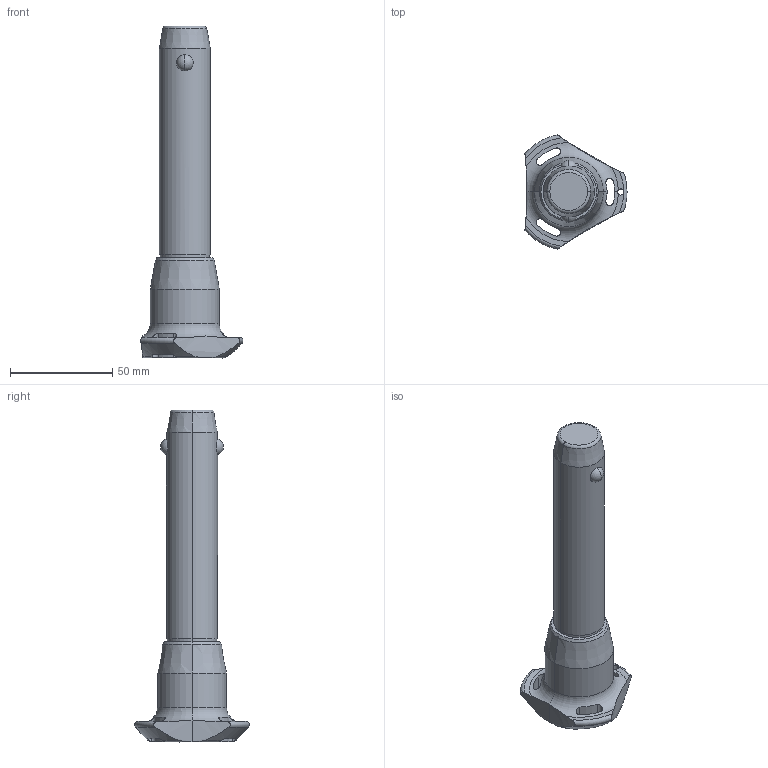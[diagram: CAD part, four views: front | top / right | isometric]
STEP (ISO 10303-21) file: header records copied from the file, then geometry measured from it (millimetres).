
FILE_DESCRIPTION (( 'STEP AP203' ), '1' );
FILE_NAME ('QR1724.M25-090-S.step', '2025-11-12T13:11:55', ( '' ), ( '' ), 'SwSTEP 2.0', 'SolidWorks 2019', '' );
FILE_SCHEMA (( 'CONFIG_CONTROL_DESIGN' ));
Length unit declared in the file: millimetre
Products named in the file (1): QR1724.M25-090-S
Bounding box: 50.04 x 56.02 x 162.7 mm (x, y, z)
Volume: 102632.2 mm3; surface area: 18517.8 mm2
Topology: 1 solids, 1 shells, 65 faces, 176 edges, 111 vertices
Faces by surface type: cylinder 30, cone 14, torus 11, sphere 6, plane 4
Entity records: 2858 total; most frequent: CARTESIAN_POINT 1179, ORIENTED_EDGE 352, DIRECTION 329, EDGE_CURVE 176, AXIS2_PLACEMENT_3D 147, VERTEX_POINT 111, CIRCLE 81, EDGE_LOOP 71
